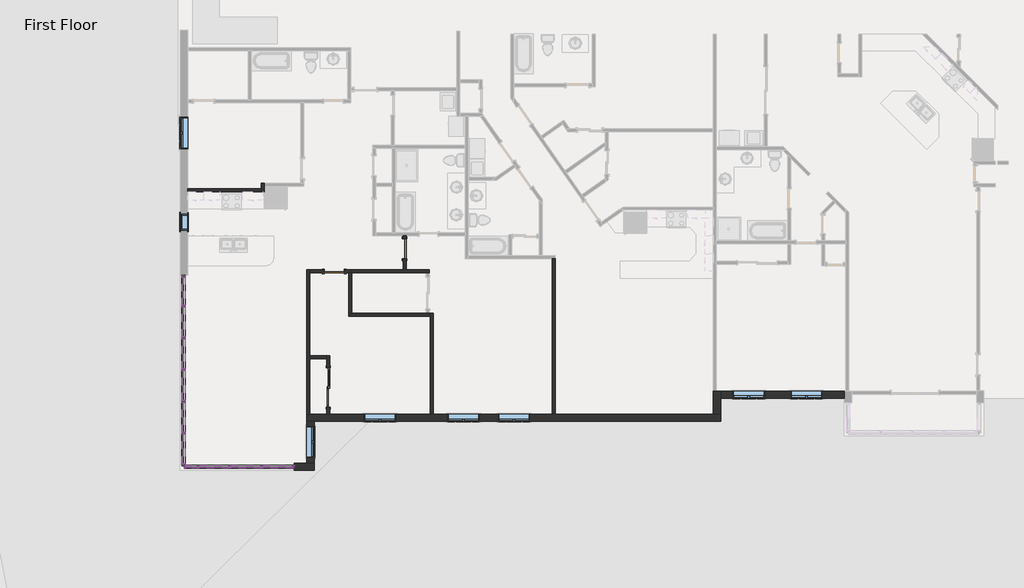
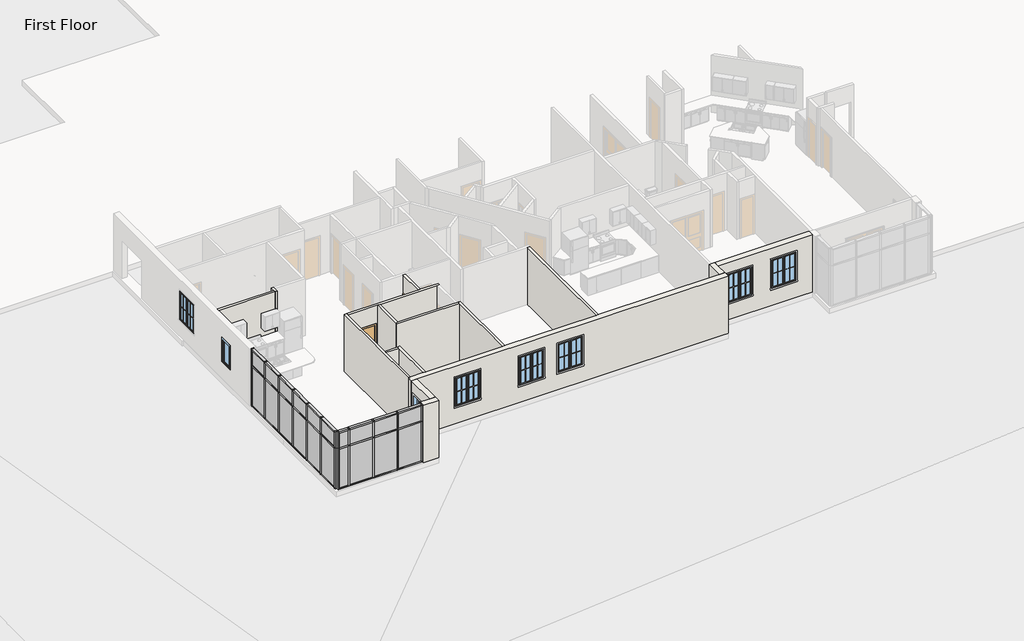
# One storey, part 1 of 17: 54 members, 20 plates, 16 walls, 8 windows, 3 doors.
"""IFC4 building model written with IfcOpenShell, lengths in millimetres."""

from ifc_helpers import new_model, si_unit, frame, origin, origin_with_axes, place, context, project, spatial, polyline, outline, extrude, faceted_brep, transform, mapped, element, save
from components import door_f2b275c1, door_2e7ec8be, rectangular_mullion_rectangular_mullion_1_c1bf3533, rectangular_mullion_rectangular_mullion_1_fa3625a1, rectangular_mullion_rectangular_mullion_1_a50b3cda, rectangular_mullion_rectangular_mullion_1_5cd4c5ac, rectangular_mullion_rectangular_mullion_1_7cbf0b94, rectangular_mullion_rectangular_mullion_1_1da01dff, rectangular_mullion_rectangular_mullion_1_6186cc23, rectangular_mullion_rectangular_mullion_1_049a2e78, rectangular_mullion_rectangular_mullion_1_fcad50a8, rectangular_mullion_rectangular_mullion_1_aa096312, system_panel_glazed_53e6f9fb, system_panel_glazed_0e039939, system_panel_glazed_cb820e14, system_panel_glazed_5b288161, system_panel_glazed_f20beefc, system_panel_glazed_097fd36c, window_b85827b5, window_33528cc2

model = new_model("IFC4")

# Units and contexts
model_context = context("Model", 3, world=origin())
ifc_project = project(units=[si_unit("LENGTHUNIT", "METRE", prefix="MILLI")], contexts=[model_context])

# Site, building, storey
site = spatial("IfcSite", under=ifc_project)
building = spatial("IfcBuilding", under=site)
storey = spatial("IfcBuildingStorey", under=building, Name="First Floor", Elevation=0.0)

# Doors
placement = place(None, origin())
door_shape = door_f2b275c1(model_context)
element("IfcDoor", 1, ObjectType="Single-Flush : 30\" x 80\"", at=placement, inside=storey, context=model_context, shape_type="MappedRepresentation", body=[
    mapped(door_shape, transform((12807.779723, -13829.1071807, 0.0), x_axis=(1.0, 0.0, 0.0), y_axis=(0.0, 1.0, 0.0), z_axis=(0.0, 0.0, 1.0))),
])
element("IfcDoor", 2, ObjectType="Single-Flush : 30\" x 80\"", at=placement, inside=storey, context=model_context, shape_type="MappedRepresentation", body=[
    mapped(door_shape, transform((15508.528371, -12959.3282576, 0.0), x_axis=(0.0, 1.0, 0.0), y_axis=(-1.0, 0.0, 0.0), z_axis=(0.0, 0.0, 1.0))),
])
door_2_shape = door_2e7ec8be(model_context)
element("IfcDoor", 3, ObjectType="Sliding-Closet : 60\" x 80\"", at=placement, inside=storey, context=model_context, shape_type="MappedRepresentation", body=[
    mapped(door_2_shape, transform((12448.2103704, -18291.1858961, 0.0), x_axis=(0.0, -1.0, 0.0), y_axis=(1.0, 0.0, 0.0), z_axis=(0.0, 0.0, 1.0))),
])

# Members
rectangular_mullion_rectangular_mullion_1_shape = rectangular_mullion_rectangular_mullion_1_c1bf3533(model_context)
element("IfcMember", 4, ObjectType="Rectangular Mullion : Rectangular Mullion 1", at=placement, inside=storey, context=model_context, shape_type="MappedRepresentation", body=[
    mapped(rectangular_mullion_rectangular_mullion_1_shape, transform((7097.5509633, -21333.0996067, 3048.0), x_axis=(0.0, 0.0, 1.0), y_axis=(0.0, 1.0, 0.0), z_axis=(-1.0, 0.0, 0.0))),
])
rectangular_mullion_rectangular_mullion_1_2_shape = rectangular_mullion_rectangular_mullion_1_fa3625a1(model_context)
element("IfcMember", 5, ObjectType="Rectangular Mullion : Rectangular Mullion 1", at=placement, inside=storey, context=model_context, shape_type="MappedRepresentation", body=[
    mapped(rectangular_mullion_rectangular_mullion_1_2_shape, transform((10056.650963, -21333.0996067, 3048.0), x_axis=(0.0, 0.0, 1.0), y_axis=(0.0, 1.0, 0.0), z_axis=(-1.0, 0.0, 0.0))),
])
element("IfcMember", 6, ObjectType="Rectangular Mullion : Rectangular Mullion 1", at=placement, inside=storey, context=model_context, shape_type="MappedRepresentation", body=[
    mapped(rectangular_mullion_rectangular_mullion_1_2_shape, transform((8837.450963, -21333.0996067, 3048.0), x_axis=(0.0, 0.0, 1.0), y_axis=(0.0, 1.0, 0.0), z_axis=(-1.0, 0.0, 0.0))),
])
element("IfcMember", 7, ObjectType="Rectangular Mullion : Rectangular Mullion 1", at=placement, inside=storey, context=model_context, shape_type="MappedRepresentation", body=[
    mapped(rectangular_mullion_rectangular_mullion_1_2_shape, transform((7618.250963, -21333.0996067, 3048.0), x_axis=(0.0, 0.0, 1.0), y_axis=(0.0, 1.0, 0.0), z_axis=(-1.0, 0.0, 0.0))),
])
element("IfcMember", 8, ObjectType="Rectangular Mullion : Rectangular Mullion 1", at=placement, inside=storey, context=model_context, shape_type="MappedRepresentation", body=[
    mapped(rectangular_mullion_rectangular_mullion_1_2_shape, transform((7015.0009633, -20069.4496064, 3048.0), x_axis=(0.0, 0.0, 1.0), y_axis=(1.0, 0.0, 0.0), z_axis=(0.0, 1.0, 0.0))),
])
element("IfcMember", 9, ObjectType="Rectangular Mullion : Rectangular Mullion 1", at=placement, inside=storey, context=model_context, shape_type="MappedRepresentation", body=[
    mapped(rectangular_mullion_rectangular_mullion_1_2_shape, transform((7015.0009633, -18850.2496064, 3048.0), x_axis=(0.0, 0.0, 1.0), y_axis=(1.0, 0.0, 0.0), z_axis=(0.0, 1.0, 0.0))),
])
element("IfcMember", 10, ObjectType="Rectangular Mullion : Rectangular Mullion 1", at=placement, inside=storey, context=model_context, shape_type="MappedRepresentation", body=[
    mapped(rectangular_mullion_rectangular_mullion_1_2_shape, transform((7015.0009633, -17631.0496064, 3048.0), x_axis=(0.0, 0.0, 1.0), y_axis=(1.0, 0.0, 0.0), z_axis=(0.0, 1.0, 0.0))),
])
element("IfcMember", 11, ObjectType="Rectangular Mullion : Rectangular Mullion 1", at=placement, inside=storey, context=model_context, shape_type="MappedRepresentation", body=[
    mapped(rectangular_mullion_rectangular_mullion_1_2_shape, transform((7015.0009633, -16411.8496064, 3048.0), x_axis=(0.0, 0.0, 1.0), y_axis=(1.0, 0.0, 0.0), z_axis=(0.0, 1.0, 0.0))),
])
element("IfcMember", 12, ObjectType="Rectangular Mullion : Rectangular Mullion 1", at=placement, inside=storey, context=model_context, shape_type="MappedRepresentation", body=[
    mapped(rectangular_mullion_rectangular_mullion_1_2_shape, transform((7015.0009633, -15192.6496064, 3048.0), x_axis=(0.0, 0.0, 1.0), y_axis=(1.0, 0.0, 0.0), z_axis=(0.0, 1.0, 0.0))),
])
element("IfcMember", 13, ObjectType="Rectangular Mullion : Rectangular Mullion 1", at=placement, inside=storey, context=model_context, shape_type="MappedRepresentation", body=[
    mapped(rectangular_mullion_rectangular_mullion_1_2_shape, transform((11212.3509633, -21333.0996067, 0.0), x_axis=(0.0, 0.0, -1.0), y_axis=(0.0, 1.0, 0.0), z_axis=(1.0, 0.0, 0.0))),
])
element("IfcMember", 14, ObjectType="Rectangular Mullion : Rectangular Mullion 1", at=placement, inside=storey, context=model_context, shape_type="MappedRepresentation", body=[
    mapped(rectangular_mullion_rectangular_mullion_1_2_shape, transform((9993.150963, -21333.0996067, 0.0), x_axis=(0.0, 0.0, -1.0), y_axis=(0.0, 1.0, 0.0), z_axis=(1.0, 0.0, 0.0))),
])
element("IfcMember", 15, ObjectType="Rectangular Mullion : Rectangular Mullion 1", at=placement, inside=storey, context=model_context, shape_type="MappedRepresentation", body=[
    mapped(rectangular_mullion_rectangular_mullion_1_2_shape, transform((8773.950963, -21333.0996067, 0.0), x_axis=(0.0, 0.0, -1.0), y_axis=(0.0, 1.0, 0.0), z_axis=(1.0, 0.0, 0.0))),
])
element("IfcMember", 16, ObjectType="Rectangular Mullion : Rectangular Mullion 1", at=placement, inside=storey, context=model_context, shape_type="MappedRepresentation", body=[
    mapped(rectangular_mullion_rectangular_mullion_1_2_shape, transform((7015.0009633, -21225.1496067, 0.0), x_axis=(0.0, 0.0, -1.0), y_axis=(1.0, 0.0, 0.0), z_axis=(0.0, -1.0, 0.0))),
])
element("IfcMember", 17, ObjectType="Rectangular Mullion : Rectangular Mullion 1", at=placement, inside=storey, context=model_context, shape_type="MappedRepresentation", body=[
    mapped(rectangular_mullion_rectangular_mullion_1_2_shape, transform((7015.0009633, -20005.9496064, 0.0), x_axis=(0.0, 0.0, -1.0), y_axis=(1.0, 0.0, 0.0), z_axis=(0.0, -1.0, 0.0))),
])
element("IfcMember", 18, ObjectType="Rectangular Mullion : Rectangular Mullion 1", at=placement, inside=storey, context=model_context, shape_type="MappedRepresentation", body=[
    mapped(rectangular_mullion_rectangular_mullion_1_2_shape, transform((7015.0009633, -18786.7496064, 0.0), x_axis=(0.0, 0.0, -1.0), y_axis=(1.0, 0.0, 0.0), z_axis=(0.0, -1.0, 0.0))),
])
element("IfcMember", 19, ObjectType="Rectangular Mullion : Rectangular Mullion 1", at=placement, inside=storey, context=model_context, shape_type="MappedRepresentation", body=[
    mapped(rectangular_mullion_rectangular_mullion_1_2_shape, transform((7015.0009633, -17567.5496064, 0.0), x_axis=(0.0, 0.0, -1.0), y_axis=(1.0, 0.0, 0.0), z_axis=(0.0, -1.0, 0.0))),
])
element("IfcMember", 20, ObjectType="Rectangular Mullion : Rectangular Mullion 1", at=placement, inside=storey, context=model_context, shape_type="MappedRepresentation", body=[
    mapped(rectangular_mullion_rectangular_mullion_1_2_shape, transform((7015.0009633, -16348.3496064, 0.0), x_axis=(0.0, 0.0, -1.0), y_axis=(1.0, 0.0, 0.0), z_axis=(0.0, -1.0, 0.0))),
])
element("IfcMember", 21, ObjectType="Rectangular Mullion : Rectangular Mullion 1", at=placement, inside=storey, context=model_context, shape_type="MappedRepresentation", body=[
    mapped(rectangular_mullion_rectangular_mullion_1_shape, transform((7554.750963, -21333.0996067, 0.0), x_axis=(0.0, 0.0, -1.0), y_axis=(0.0, 1.0, 0.0), z_axis=(1.0, 0.0, 0.0))),
])
rectangular_mullion_rectangular_mullion_1_3_shape = rectangular_mullion_rectangular_mullion_1_a50b3cda(model_context)
element("IfcMember", 22, ObjectType="Rectangular Mullion : Rectangular Mullion 1", at=placement, inside=storey, context=model_context, shape_type="MappedRepresentation", body=[
    mapped(rectangular_mullion_rectangular_mullion_1_3_shape, transform((7034.0509633, -21333.0996067, 0.0), x_axis=(-1.0, 0.0, 0.0), y_axis=(0.0, 1.0, 0.0), z_axis=(0.0, 0.0, -1.0))),
])
element("IfcMember", 23, ObjectType="Rectangular Mullion : Rectangular Mullion 1", at=placement, inside=storey, context=model_context, shape_type="MappedRepresentation", body=[
    mapped(rectangular_mullion_rectangular_mullion_1_3_shape, transform((7015.0009633, -13981.3871067, 0.0), x_axis=(0.0, 1.0, 0.0), y_axis=(1.0, 0.0, 0.0), z_axis=(0.0, 0.0, -1.0))),
])
rectangular_mullion_rectangular_mullion_1_4_shape = rectangular_mullion_rectangular_mullion_1_5cd4c5ac(model_context)
element("IfcMember", 24, ObjectType="Rectangular Mullion : Rectangular Mullion 1", at=placement, inside=storey, context=model_context, shape_type="MappedRepresentation", body=[
    mapped(rectangular_mullion_rectangular_mullion_1_4_shape, transform((7034.0509633, -21333.0996067, 2165.35), x_axis=(-1.0, 0.0, 0.0), y_axis=(0.0, 1.0, 0.0), z_axis=(0.0, 0.0, -1.0))),
])
element("IfcMember", 25, ObjectType="Rectangular Mullion : Rectangular Mullion 1", at=placement, inside=storey, context=model_context, shape_type="MappedRepresentation", body=[
    mapped(rectangular_mullion_rectangular_mullion_1_4_shape, transform((7015.0009633, -13981.3871067, 2165.35), x_axis=(0.0, 1.0, 0.0), y_axis=(1.0, 0.0, 0.0), z_axis=(0.0, 0.0, -1.0))),
])
element("IfcMember", 26, ObjectType="Rectangular Mullion : Rectangular Mullion 1", at=placement, inside=storey, context=model_context, shape_type="MappedRepresentation", body=[
    mapped(rectangular_mullion_rectangular_mullion_1_4_shape, transform((11275.8509633, -21333.0996067, 3048.0), x_axis=(1.0, 0.0, 0.0), y_axis=(0.0, 1.0, 0.0), z_axis=(0.0, 0.0, 1.0))),
])
element("IfcMember", 27, ObjectType="Rectangular Mullion : Rectangular Mullion 1", at=placement, inside=storey, context=model_context, shape_type="MappedRepresentation", body=[
    mapped(rectangular_mullion_rectangular_mullion_1_4_shape, transform((7015.0009633, -21288.6496067, 3048.0), x_axis=(0.0, -1.0, 0.0), y_axis=(1.0, 0.0, 0.0), z_axis=(0.0, 0.0, 1.0))),
])
element("IfcMember", 28, ObjectType="Rectangular Mullion : Rectangular Mullion 1", at=placement, inside=storey, context=model_context, shape_type="MappedRepresentation", body=[
    mapped(rectangular_mullion_rectangular_mullion_1_3_shape, transform((11275.8509633, -21333.0996067, 2165.35), x_axis=(1.0, 0.0, 0.0), y_axis=(0.0, 1.0, 0.0), z_axis=(0.0, 0.0, 1.0))),
])
element("IfcMember", 29, ObjectType="Rectangular Mullion : Rectangular Mullion 1", at=placement, inside=storey, context=model_context, shape_type="MappedRepresentation", body=[
    mapped(rectangular_mullion_rectangular_mullion_1_3_shape, transform((7015.0009633, -21288.6496067, 2165.35), x_axis=(0.0, -1.0, 0.0), y_axis=(1.0, 0.0, 0.0), z_axis=(0.0, 0.0, 1.0))),
])
rectangular_mullion_rectangular_mullion_1_5_shape = rectangular_mullion_rectangular_mullion_1_7cbf0b94(model_context)
element("IfcMember", 30, ObjectType="Rectangular Mullion : Rectangular Mullion 1", at=placement, inside=storey, context=model_context, shape_type="MappedRepresentation", body=[
    mapped(rectangular_mullion_rectangular_mullion_1_5_shape, transform((10056.650963, -21333.0996067, 2165.35), x_axis=(0.0, 0.0, 1.0), y_axis=(0.0, 1.0, 0.0), z_axis=(-1.0, 0.0, 0.0))),
])
element("IfcMember", 31, ObjectType="Rectangular Mullion : Rectangular Mullion 1", at=placement, inside=storey, context=model_context, shape_type="MappedRepresentation", body=[
    mapped(rectangular_mullion_rectangular_mullion_1_5_shape, transform((8837.450963, -21333.0996067, 2165.35), x_axis=(0.0, 0.0, 1.0), y_axis=(0.0, 1.0, 0.0), z_axis=(-1.0, 0.0, 0.0))),
])
element("IfcMember", 32, ObjectType="Rectangular Mullion : Rectangular Mullion 1", at=placement, inside=storey, context=model_context, shape_type="MappedRepresentation", body=[
    mapped(rectangular_mullion_rectangular_mullion_1_5_shape, transform((7618.250963, -21333.0996067, 2165.35), x_axis=(0.0, 0.0, 1.0), y_axis=(0.0, 1.0, 0.0), z_axis=(-1.0, 0.0, 0.0))),
])
element("IfcMember", 33, ObjectType="Rectangular Mullion : Rectangular Mullion 1", at=placement, inside=storey, context=model_context, shape_type="MappedRepresentation", body=[
    mapped(rectangular_mullion_rectangular_mullion_1_5_shape, transform((7015.0009633, -20069.4496064, 2165.35), x_axis=(0.0, 0.0, 1.0), y_axis=(1.0, 0.0, 0.0), z_axis=(0.0, 1.0, 0.0))),
])
element("IfcMember", 34, ObjectType="Rectangular Mullion : Rectangular Mullion 1", at=placement, inside=storey, context=model_context, shape_type="MappedRepresentation", body=[
    mapped(rectangular_mullion_rectangular_mullion_1_5_shape, transform((7015.0009633, -18850.2496064, 2165.35), x_axis=(0.0, 0.0, 1.0), y_axis=(1.0, 0.0, 0.0), z_axis=(0.0, 1.0, 0.0))),
])
element("IfcMember", 35, ObjectType="Rectangular Mullion : Rectangular Mullion 1", at=placement, inside=storey, context=model_context, shape_type="MappedRepresentation", body=[
    mapped(rectangular_mullion_rectangular_mullion_1_5_shape, transform((7015.0009633, -17631.0496064, 2165.35), x_axis=(0.0, 0.0, 1.0), y_axis=(1.0, 0.0, 0.0), z_axis=(0.0, 1.0, 0.0))),
])
element("IfcMember", 36, ObjectType="Rectangular Mullion : Rectangular Mullion 1", at=placement, inside=storey, context=model_context, shape_type="MappedRepresentation", body=[
    mapped(rectangular_mullion_rectangular_mullion_1_5_shape, transform((7015.0009633, -16411.8496064, 2165.35), x_axis=(0.0, 0.0, 1.0), y_axis=(1.0, 0.0, 0.0), z_axis=(0.0, 1.0, 0.0))),
])
element("IfcMember", 37, ObjectType="Rectangular Mullion : Rectangular Mullion 1", at=placement, inside=storey, context=model_context, shape_type="MappedRepresentation", body=[
    mapped(rectangular_mullion_rectangular_mullion_1_5_shape, transform((7015.0009633, -15192.6496064, 2165.35), x_axis=(0.0, 0.0, 1.0), y_axis=(1.0, 0.0, 0.0), z_axis=(0.0, 1.0, 0.0))),
])
rectangular_mullion_rectangular_mullion_1_6_shape = rectangular_mullion_rectangular_mullion_1_1da01dff(model_context)
element("IfcMember", 38, ObjectType="Rectangular Mullion : Rectangular Mullion 1", at=placement, inside=storey, context=model_context, shape_type="MappedRepresentation", body=[
    mapped(rectangular_mullion_rectangular_mullion_1_6_shape, transform((7097.5509633, -21333.0996067, 2165.35), x_axis=(0.0, 0.0, 1.0), y_axis=(0.0, 1.0, 0.0), z_axis=(-1.0, 0.0, 0.0))),
])
rectangular_mullion_rectangular_mullion_1_7_shape = rectangular_mullion_rectangular_mullion_1_6186cc23(model_context)
element("IfcMember", 39, ObjectType="Rectangular Mullion : Rectangular Mullion 1", at=placement, inside=storey, context=model_context, shape_type="MappedRepresentation", body=[
    mapped(rectangular_mullion_rectangular_mullion_1_7_shape, transform((10024.900963, -21333.0996067, 0.0), x_axis=(-1.0, 0.0, 0.0), y_axis=(0.0, 1.0, 0.0), z_axis=(0.0, 0.0, -1.0))),
])
element("IfcMember", 40, ObjectType="Rectangular Mullion : Rectangular Mullion 1", at=placement, inside=storey, context=model_context, shape_type="MappedRepresentation", body=[
    mapped(rectangular_mullion_rectangular_mullion_1_7_shape, transform((8805.700963, -21333.0996067, 0.0), x_axis=(-1.0, 0.0, 0.0), y_axis=(0.0, 1.0, 0.0), z_axis=(0.0, 0.0, -1.0))),
])
element("IfcMember", 41, ObjectType="Rectangular Mullion : Rectangular Mullion 1", at=placement, inside=storey, context=model_context, shape_type="MappedRepresentation", body=[
    mapped(rectangular_mullion_rectangular_mullion_1_7_shape, transform((7586.500963, -21333.0996067, 0.0), x_axis=(-1.0, 0.0, 0.0), y_axis=(0.0, 1.0, 0.0), z_axis=(0.0, 0.0, -1.0))),
])
element("IfcMember", 42, ObjectType="Rectangular Mullion : Rectangular Mullion 1", at=placement, inside=storey, context=model_context, shape_type="MappedRepresentation", body=[
    mapped(rectangular_mullion_rectangular_mullion_1_7_shape, transform((7015.0009633, -20037.6996064, 0.0), x_axis=(0.0, 1.0, 0.0), y_axis=(1.0, 0.0, 0.0), z_axis=(0.0, 0.0, -1.0))),
])
element("IfcMember", 43, ObjectType="Rectangular Mullion : Rectangular Mullion 1", at=placement, inside=storey, context=model_context, shape_type="MappedRepresentation", body=[
    mapped(rectangular_mullion_rectangular_mullion_1_7_shape, transform((7015.0009633, -18818.4996064, 0.0), x_axis=(0.0, 1.0, 0.0), y_axis=(1.0, 0.0, 0.0), z_axis=(0.0, 0.0, -1.0))),
])
element("IfcMember", 44, ObjectType="Rectangular Mullion : Rectangular Mullion 1", at=placement, inside=storey, context=model_context, shape_type="MappedRepresentation", body=[
    mapped(rectangular_mullion_rectangular_mullion_1_7_shape, transform((7015.0009633, -17599.2996064, 0.0), x_axis=(0.0, 1.0, 0.0), y_axis=(1.0, 0.0, 0.0), z_axis=(0.0, 0.0, -1.0))),
])
element("IfcMember", 45, ObjectType="Rectangular Mullion : Rectangular Mullion 1", at=placement, inside=storey, context=model_context, shape_type="MappedRepresentation", body=[
    mapped(rectangular_mullion_rectangular_mullion_1_7_shape, transform((7015.0009633, -16380.0996064, 0.0), x_axis=(0.0, 1.0, 0.0), y_axis=(1.0, 0.0, 0.0), z_axis=(0.0, 0.0, -1.0))),
])
element("IfcMember", 46, ObjectType="Rectangular Mullion : Rectangular Mullion 1", at=placement, inside=storey, context=model_context, shape_type="MappedRepresentation", body=[
    mapped(rectangular_mullion_rectangular_mullion_1_7_shape, transform((7015.0009633, -15160.8996064, 0.0), x_axis=(0.0, 1.0, 0.0), y_axis=(1.0, 0.0, 0.0), z_axis=(0.0, 0.0, -1.0))),
])
rectangular_mullion_rectangular_mullion_1_8_shape = rectangular_mullion_rectangular_mullion_1_049a2e78(model_context)
element("IfcMember", 47, ObjectType="Rectangular Mullion : Rectangular Mullion 1", at=placement, inside=storey, context=model_context, shape_type="MappedRepresentation", body=[
    mapped(rectangular_mullion_rectangular_mullion_1_8_shape, transform((10024.900963, -21333.0996067, 2165.35), x_axis=(-1.0, 0.0, 0.0), y_axis=(0.0, 1.0, 0.0), z_axis=(0.0, 0.0, -1.0))),
])
element("IfcMember", 48, ObjectType="Rectangular Mullion : Rectangular Mullion 1", at=placement, inside=storey, context=model_context, shape_type="MappedRepresentation", body=[
    mapped(rectangular_mullion_rectangular_mullion_1_8_shape, transform((8805.700963, -21333.0996067, 2165.35), x_axis=(-1.0, 0.0, 0.0), y_axis=(0.0, 1.0, 0.0), z_axis=(0.0, 0.0, -1.0))),
])
element("IfcMember", 49, ObjectType="Rectangular Mullion : Rectangular Mullion 1", at=placement, inside=storey, context=model_context, shape_type="MappedRepresentation", body=[
    mapped(rectangular_mullion_rectangular_mullion_1_8_shape, transform((7586.500963, -21333.0996067, 2165.35), x_axis=(-1.0, 0.0, 0.0), y_axis=(0.0, 1.0, 0.0), z_axis=(0.0, 0.0, -1.0))),
])
element("IfcMember", 50, ObjectType="Rectangular Mullion : Rectangular Mullion 1", at=placement, inside=storey, context=model_context, shape_type="MappedRepresentation", body=[
    mapped(rectangular_mullion_rectangular_mullion_1_8_shape, transform((7015.0009633, -20037.6996064, 2165.35), x_axis=(0.0, 1.0, 0.0), y_axis=(1.0, 0.0, 0.0), z_axis=(0.0, 0.0, -1.0))),
])
element("IfcMember", 51, ObjectType="Rectangular Mullion : Rectangular Mullion 1", at=placement, inside=storey, context=model_context, shape_type="MappedRepresentation", body=[
    mapped(rectangular_mullion_rectangular_mullion_1_8_shape, transform((7015.0009633, -18818.4996064, 2165.35), x_axis=(0.0, 1.0, 0.0), y_axis=(1.0, 0.0, 0.0), z_axis=(0.0, 0.0, -1.0))),
])
element("IfcMember", 52, ObjectType="Rectangular Mullion : Rectangular Mullion 1", at=placement, inside=storey, context=model_context, shape_type="MappedRepresentation", body=[
    mapped(rectangular_mullion_rectangular_mullion_1_8_shape, transform((7015.0009633, -17599.2996064, 2165.35), x_axis=(0.0, 1.0, 0.0), y_axis=(1.0, 0.0, 0.0), z_axis=(0.0, 0.0, -1.0))),
])
element("IfcMember", 53, ObjectType="Rectangular Mullion : Rectangular Mullion 1", at=placement, inside=storey, context=model_context, shape_type="MappedRepresentation", body=[
    mapped(rectangular_mullion_rectangular_mullion_1_8_shape, transform((7015.0009633, -16380.0996064, 2165.35), x_axis=(0.0, 1.0, 0.0), y_axis=(1.0, 0.0, 0.0), z_axis=(0.0, 0.0, -1.0))),
])
element("IfcMember", 54, ObjectType="Rectangular Mullion : Rectangular Mullion 1", at=placement, inside=storey, context=model_context, shape_type="MappedRepresentation", body=[
    mapped(rectangular_mullion_rectangular_mullion_1_8_shape, transform((7015.0009633, -15160.8996064, 2165.35), x_axis=(0.0, 1.0, 0.0), y_axis=(1.0, 0.0, 0.0), z_axis=(0.0, 0.0, -1.0))),
])
rectangular_mullion_rectangular_mullion_1_9_shape = rectangular_mullion_rectangular_mullion_1_fcad50a8(model_context)
element("IfcMember", 55, ObjectType="Rectangular Mullion : Rectangular Mullion 1", at=placement, inside=storey, context=model_context, shape_type="MappedRepresentation", body=[
    mapped(rectangular_mullion_rectangular_mullion_1_9_shape, transform((7015.0009633, -14044.8871067, 3048.0), x_axis=(0.0, 0.0, 1.0), y_axis=(1.0, 0.0, 0.0), z_axis=(0.0, 1.0, 0.0))),
])
element("IfcMember", 56, ObjectType="Rectangular Mullion : Rectangular Mullion 1", at=placement, inside=storey, context=model_context, shape_type="MappedRepresentation", body=[
    mapped(rectangular_mullion_rectangular_mullion_1_9_shape, transform((7015.0009633, -15129.1496064, 0.0), x_axis=(0.0, 0.0, -1.0), y_axis=(1.0, 0.0, 0.0), z_axis=(0.0, -1.0, 0.0))),
])
rectangular_mullion_rectangular_mullion_1_10_shape = rectangular_mullion_rectangular_mullion_1_aa096312(model_context)
element("IfcMember", 57, ObjectType="Rectangular Mullion : Rectangular Mullion 1", at=placement, inside=storey, context=model_context, shape_type="MappedRepresentation", body=[
    mapped(rectangular_mullion_rectangular_mullion_1_10_shape, transform((7015.0009633, -14044.8871067, 2165.35), x_axis=(0.0, 0.0, 1.0), y_axis=(1.0, 0.0, 0.0), z_axis=(0.0, 1.0, 0.0))),
])

# Plates
system_panel_glazed_shape = system_panel_glazed_53e6f9fb(model_context)
element("IfcPlate", 58, ObjectType="System Panel : Glazed", at=placement, inside=storey, context=model_context, shape_type="MappedRepresentation", body=[
    mapped(system_panel_glazed_shape, transform((10634.5009632, -21333.0996067, 63.5), x_axis=(-1.0, 0.0, 0.0), y_axis=(0.0, -1.0, 0.0), z_axis=(0.0, 0.0, 1.0))),
])
element("IfcPlate", 59, ObjectType="System Panel : Glazed", at=placement, inside=storey, context=model_context, shape_type="MappedRepresentation", body=[
    mapped(system_panel_glazed_shape, transform((7015.0009633, -20647.2996066, 63.5), x_axis=(0.0, 1.0, 0.0), y_axis=(-1.0, 0.0, 0.0), z_axis=(0.0, 0.0, 1.0))),
])
element("IfcPlate", 60, ObjectType="System Panel : Glazed", at=placement, inside=storey, context=model_context, shape_type="MappedRepresentation", body=[
    mapped(system_panel_glazed_shape, transform((9415.300963, -21333.0996067, 63.5), x_axis=(-1.0, 0.0, 0.0), y_axis=(0.0, -1.0, 0.0), z_axis=(0.0, 0.0, 1.0))),
])
element("IfcPlate", 61, ObjectType="System Panel : Glazed", at=placement, inside=storey, context=model_context, shape_type="MappedRepresentation", body=[
    mapped(system_panel_glazed_shape, transform((8196.100963, -21333.0996067, 63.5), x_axis=(-1.0, 0.0, 0.0), y_axis=(0.0, -1.0, 0.0), z_axis=(0.0, 0.0, 1.0))),
])
element("IfcPlate", 62, ObjectType="System Panel : Glazed", at=placement, inside=storey, context=model_context, shape_type="MappedRepresentation", body=[
    mapped(system_panel_glazed_shape, transform((7015.0009633, -19428.0996064, 63.5), x_axis=(0.0, 1.0, 0.0), y_axis=(-1.0, 0.0, 0.0), z_axis=(0.0, 0.0, 1.0))),
])
element("IfcPlate", 63, ObjectType="System Panel : Glazed", at=placement, inside=storey, context=model_context, shape_type="MappedRepresentation", body=[
    mapped(system_panel_glazed_shape, transform((7015.0009633, -18208.8996064, 63.5), x_axis=(0.0, 1.0, 0.0), y_axis=(-1.0, 0.0, 0.0), z_axis=(0.0, 0.0, 1.0))),
])
element("IfcPlate", 64, ObjectType="System Panel : Glazed", at=placement, inside=storey, context=model_context, shape_type="MappedRepresentation", body=[
    mapped(system_panel_glazed_shape, transform((7015.0009633, -16989.6996064, 63.5), x_axis=(0.0, 1.0, 0.0), y_axis=(-1.0, 0.0, 0.0), z_axis=(0.0, 0.0, 1.0))),
])
element("IfcPlate", 65, ObjectType="System Panel : Glazed", at=placement, inside=storey, context=model_context, shape_type="MappedRepresentation", body=[
    mapped(system_panel_glazed_shape, transform((7015.0009633, -15770.4996064, 63.5), x_axis=(0.0, 1.0, 0.0), y_axis=(-1.0, 0.0, 0.0), z_axis=(0.0, 0.0, 1.0))),
])
system_panel_glazed_2_shape = system_panel_glazed_0e039939(model_context)
element("IfcPlate", 66, ObjectType="System Panel : Glazed", at=placement, inside=storey, context=model_context, shape_type="MappedRepresentation", body=[
    mapped(system_panel_glazed_2_shape, transform((7326.1509632, -21333.0996067, 63.5), x_axis=(-1.0, 0.0, 0.0), y_axis=(0.0, -1.0, 0.0), z_axis=(0.0, 0.0, 1.0))),
])
system_panel_glazed_3_shape = system_panel_glazed_cb820e14(model_context)
element("IfcPlate", 67, ObjectType="System Panel : Glazed", at=placement, inside=storey, context=model_context, shape_type="MappedRepresentation", body=[
    mapped(system_panel_glazed_3_shape, transform((10634.5009632, -21333.0996067, 2197.1), x_axis=(-1.0, 0.0, 0.0), y_axis=(0.0, -1.0, 0.0), z_axis=(0.0, 0.0, 1.0))),
])
element("IfcPlate", 68, ObjectType="System Panel : Glazed", at=placement, inside=storey, context=model_context, shape_type="MappedRepresentation", body=[
    mapped(system_panel_glazed_3_shape, transform((9415.300963, -21333.0996067, 2197.1), x_axis=(-1.0, 0.0, 0.0), y_axis=(0.0, -1.0, 0.0), z_axis=(0.0, 0.0, 1.0))),
])
element("IfcPlate", 69, ObjectType="System Panel : Glazed", at=placement, inside=storey, context=model_context, shape_type="MappedRepresentation", body=[
    mapped(system_panel_glazed_3_shape, transform((8196.100963, -21333.0996067, 2197.1), x_axis=(-1.0, 0.0, 0.0), y_axis=(0.0, -1.0, 0.0), z_axis=(0.0, 0.0, 1.0))),
])
element("IfcPlate", 70, ObjectType="System Panel : Glazed", at=placement, inside=storey, context=model_context, shape_type="MappedRepresentation", body=[
    mapped(system_panel_glazed_3_shape, transform((7015.0009633, -20647.2996066, 2197.1), x_axis=(0.0, 1.0, 0.0), y_axis=(-1.0, 0.0, 0.0), z_axis=(0.0, 0.0, 1.0))),
])
element("IfcPlate", 71, ObjectType="System Panel : Glazed", at=placement, inside=storey, context=model_context, shape_type="MappedRepresentation", body=[
    mapped(system_panel_glazed_3_shape, transform((7015.0009633, -19428.0996064, 2197.1), x_axis=(0.0, 1.0, 0.0), y_axis=(-1.0, 0.0, 0.0), z_axis=(0.0, 0.0, 1.0))),
])
element("IfcPlate", 72, ObjectType="System Panel : Glazed", at=placement, inside=storey, context=model_context, shape_type="MappedRepresentation", body=[
    mapped(system_panel_glazed_3_shape, transform((7015.0009633, -18208.8996064, 2197.1), x_axis=(0.0, 1.0, 0.0), y_axis=(-1.0, 0.0, 0.0), z_axis=(0.0, 0.0, 1.0))),
])
element("IfcPlate", 73, ObjectType="System Panel : Glazed", at=placement, inside=storey, context=model_context, shape_type="MappedRepresentation", body=[
    mapped(system_panel_glazed_3_shape, transform((7015.0009633, -16989.6996064, 2197.1), x_axis=(0.0, 1.0, 0.0), y_axis=(-1.0, 0.0, 0.0), z_axis=(0.0, 0.0, 1.0))),
])
element("IfcPlate", 74, ObjectType="System Panel : Glazed", at=placement, inside=storey, context=model_context, shape_type="MappedRepresentation", body=[
    mapped(system_panel_glazed_3_shape, transform((7015.0009633, -15770.4996064, 2197.1), x_axis=(0.0, 1.0, 0.0), y_axis=(-1.0, 0.0, 0.0), z_axis=(0.0, 0.0, 1.0))),
])
system_panel_glazed_4_shape = system_panel_glazed_5b288161(model_context)
element("IfcPlate", 75, ObjectType="System Panel : Glazed", at=placement, inside=storey, context=model_context, shape_type="MappedRepresentation", body=[
    mapped(system_panel_glazed_4_shape, transform((7326.1509632, -21333.0996067, 2197.1), x_axis=(-1.0, 0.0, 0.0), y_axis=(0.0, -1.0, 0.0), z_axis=(0.0, 0.0, 1.0))),
])
system_panel_glazed_5_shape = system_panel_glazed_f20beefc(model_context)
element("IfcPlate", 76, ObjectType="System Panel : Glazed", at=placement, inside=storey, context=model_context, shape_type="MappedRepresentation", body=[
    mapped(system_panel_glazed_5_shape, transform((7015.0009633, -14587.0183566, 63.5), x_axis=(0.0, 1.0, 0.0), y_axis=(-1.0, 0.0, 0.0), z_axis=(0.0, 0.0, 1.0))),
])
system_panel_glazed_6_shape = system_panel_glazed_097fd36c(model_context)
element("IfcPlate", 77, ObjectType="System Panel : Glazed", at=placement, inside=storey, context=model_context, shape_type="MappedRepresentation", body=[
    mapped(system_panel_glazed_6_shape, transform((7015.0009633, -14587.0183566, 2197.1), x_axis=(0.0, 1.0, 0.0), y_axis=(-1.0, 0.0, 0.0), z_axis=(0.0, 0.0, 1.0))),
])

# Walls
element("IfcWall", 78, ObjectType="Exterior - Brick on Wood Stud", at=placement, inside=storey, context=model_context, shape_type="Brep", body=[
    faceted_brep([(12033.0884633, -21191.8121067, 0.0), (11750.5134633, -21191.8121067, 0.0), (11275.8509633, -21191.8121067, 0.0), (11275.8509633, -21191.8121067, 3048.0), (11750.5134633, -21191.8121067, 3048.0), (12033.0884633, -21191.8121067, 3048.0), (12033.0884633, -21474.3871067, 0.0), (12033.0884633, -21474.3871067, 3048.0), (11275.8509633, -21474.3871067, 3048.0), (11275.8509633, -21474.3871067, 0.0)], [[[0, 1, 2, 3, 4, 5]], [[6, 7, 8, 9]], [[2, 1, 0, 6, 9]], [[3, 2, 9, 8]], [[5, 4, 3, 8, 7]], [[0, 5, 7, 6]]]),
])
element("IfcWall", 79, ObjectType="Exterior - Brick on Wood Stud", at=placement, inside=storey, context=model_context, shape_type="Brep", body=[
    faceted_brep([(27656.3115862, -19313.2865506, 0.0), (27373.7365862, -19313.2865506, 0.0), (21299.9615862, -19313.2865506, 0.0), (21185.6615862, -19313.2865506, 0.0), (16611.410372, -19313.2865506, 0.0), (16497.110372, -19313.2865506, 0.0), (12632.3603704, -19313.2865506, 0.0), (12518.0603704, -19313.2865506, 0.0), (11864.8134633, -19313.2865506, 0.0), (11750.5134633, -19313.2865506, 0.0), (11750.5134633, -19313.2865506, 3048.0), (11864.8134633, -19313.2865506, 3048.0), (12518.0603704, -19313.2865506, 3048.0), (12632.3603704, -19313.2865506, 3048.0), (16497.110372, -19313.2865506, 3048.0), (16611.410372, -19313.2865506, 3048.0), (21185.6615862, -19313.2865506, 3048.0), (21299.9615862, -19313.2865506, 3048.0), (27373.7365862, -19313.2865506, 3048.0), (27656.3115862, -19313.2865506, 3048.0), (19109.2115862, -19313.2865506, 2438.4), (19109.2115862, -19313.2865506, 914.4), (20328.4115862, -19313.2865506, 914.4), (20328.4115862, -19313.2865506, 2438.4), (13955.1353712, -19313.2865506, 2438.4), (13955.1353712, -19313.2865506, 914.4), (15174.3353712, -19313.2865506, 914.4), (15174.3353712, -19313.2865506, 2438.4), (17163.860372, -19313.2865506, 2438.4), (17163.860372, -19313.2865506, 914.4), (18383.060372, -19313.2865506, 914.4), (18383.060372, -19313.2865506, 2438.4), (27656.3115862, -19595.8615506, 0.0), (27656.3115862, -19595.8615506, 3048.0), (12033.0884633, -19595.8615506, 3048.0), (11750.5134633, -19595.8615506, 3048.0), (11750.5134633, -19595.8615506, 0.0), (12033.0884633, -19595.8615506, 0.0), (19109.2115862, -19595.8615506, 2438.4), (20328.4115862, -19595.8615506, 2438.4), (20328.4115862, -19595.8615506, 914.4), (19109.2115862, -19595.8615506, 914.4), (13955.1353712, -19595.8615506, 2438.4), (15174.3353712, -19595.8615506, 2438.4), (15174.3353712, -19595.8615506, 914.4), (13955.1353712, -19595.8615506, 914.4), (17163.860372, -19595.8615506, 2438.4), (18383.060372, -19595.8615506, 2438.4), (18383.060372, -19595.8615506, 914.4), (17163.860372, -19595.8615506, 914.4)], [[[0, 1, 2, 3, 4, 5, 6, 7, 8, 9, 10, 11, 12, 13, 14, 15, 16, 17, 18, 19], [20, 21, 22, 23], [24, 25, 26, 27], [28, 29, 30, 31]], [[32, 33, 34, 35, 36, 37], [38, 39, 40, 41], [42, 43, 44, 45], [46, 47, 48, 49]], [[21, 20, 38, 41]], [[22, 21, 41, 40]], [[23, 22, 40, 39]], [[20, 23, 39, 38]], [[25, 24, 42, 45]], [[26, 25, 45, 44]], [[27, 26, 44, 43]], [[24, 27, 43, 42]], [[29, 28, 46, 49]], [[30, 29, 49, 48]], [[31, 30, 48, 47]], [[28, 31, 47, 46]], [[9, 8, 7, 6, 5, 4, 3, 2, 1, 0, 32, 37, 36]], [[19, 18, 17, 16, 15, 14, 13, 12, 11, 10, 35, 34, 33]], [[0, 19, 33, 32]], [[10, 9, 36, 35]]]),
])
element("IfcWall", 80, ObjectType="Exterior - Brick on Wood Stud", at=placement, inside=storey, context=model_context, shape_type="Brep", body=[
    faceted_brep([(27656.3115862, -19313.2865506, 0.0), (27656.3115862, -18708.8441587, 0.0), (27656.3115862, -18426.2691587, 0.0), (27656.3115862, -18426.2691587, 3048.0), (27656.3115862, -18708.8441587, 3048.0), (27656.3115862, -19313.2865506, 3048.0), (27373.7365862, -19313.2865506, 0.0), (27373.7365862, -19313.2865506, 3048.0), (27373.7365862, -18426.2691587, 3048.0), (27373.7365862, -18426.2691587, 0.0), (27488.0365862, -18426.2691587, 0.0), (27488.0365862, -18426.2691587, 3048.0)], [[[0, 1, 2, 3, 4, 5]], [[6, 7, 8, 9]], [[2, 1, 0, 6, 9, 10]], [[5, 4, 3, 11, 8, 7]], [[3, 2, 10, 9, 8, 11]], [[0, 5, 7, 6]]]),
])
element("IfcWall", 81, ObjectType="Exterior - Brick on Wood Stud", at=placement, inside=storey, context=model_context, shape_type="SweptSolid", body=[
    extrude(outline(polyline([(-21191.8121067, 0.0), (-21191.8121067, 3048.0), (-19595.8615506, 3048.0), (-19595.8615506, 0.0), (-21191.8121067, 0.0)]), holes=[polyline([(-20990.7368287, 2438.4), (-20990.7368287, 914.4), (-19771.5368287, 914.4), (-19771.5368287, 2438.4), (-20990.7368287, 2438.4)])]), frame((11750.5134633, 0.0, 0.0), z_axis=(1.0, 0.0, 0.0), x_axis=(0.0, 1.0, 0.0)), (0.0, 0.0, 1.0), 282.575),
])
element("IfcWall", 82, ObjectType="Exterior - Brick on Wood Stud", at=placement, inside=storey, context=model_context, shape_type="SweptSolid", body=[
    extrude(outline(polyline([(0.0, 27656.3115862), (0.0, 32412.3745389), (3048.0, 32412.3745389), (3048.0, 27656.3115862), (0.0, 27656.3115862)]), holes=[polyline([(2438.4, 28124.6240862), (2438.4, 29343.8240862), (914.4, 29343.8240862), (914.4, 28124.6240862), (2438.4, 28124.6240862)]), polyline([(2438.4, 30343.8620389), (2438.4, 31563.0620389), (914.4, 31563.0620389), (914.4, 30343.8620389), (2438.4, 30343.8620389)])]), frame((0.0, -18708.8441587, 0.0), z_axis=(0.0, 1.0, 0.0), x_axis=(0.0, 0.0, 1.0)), (0.0, 0.0, 1.0), 282.575),
])
element("IfcWall", 83, ObjectType="Interior - 4 1/2\" Partition", at=placement, inside=storey, context=model_context, shape_type="SweptSolid", body=[
    extrude(outline(polyline([(21185.6615862, -19313.2865506), (21185.6615862, -13350.4704597), (21299.9615862, -13350.4704597), (21299.9615862, -19313.2865506), (21185.6615862, -19313.2865506)])), origin_with_axes(), (0.0, 0.0, 1.0), 3048.0),
])
element("IfcWall", 84, ObjectType="Interior - 4 1/2\" Partition", at=placement, inside=storey, context=model_context, shape_type="Brep", body=[
    faceted_brep([(16611.410372, -19313.2865506, 0.0), (16611.410372, -15440.4282946, 0.0), (16611.410372, -15440.4282946, 3048.0), (16611.410372, -19313.2865506, 3048.0), (16497.110372, -19313.2865506, 0.0), (16497.110372, -19313.2865506, 3048.0), (16497.110372, -15554.7282946, 3048.0), (16497.110372, -15440.4282946, 3048.0), (16497.110372, -15440.4282946, 0.0), (16497.110372, -15554.7282946, 0.0)], [[[0, 1, 2, 3]], [[4, 5, 6, 7, 8, 9]], [[1, 0, 4, 9, 8]], [[3, 2, 7, 6, 5]], [[2, 1, 8, 7]], [[0, 3, 5, 4]]]),
])
element("IfcWall", 85, ObjectType="Interior - 4 1/2\" Partition", at=placement, inside=storey, context=model_context, shape_type="Brep", body=[
    faceted_brep([(16497.110372, -15440.4282946, 0.0), (16459.010372, -15440.4282946, 0.0), (16344.710372, -15440.4282946, 0.0), (13474.529723, -15440.4282946, 0.0), (13360.229723, -15440.4282946, 0.0), (13360.229723, -15440.4282946, 3048.0), (13474.529723, -15440.4282946, 3048.0), (16344.710372, -15440.4282946, 3048.0), (16459.010372, -15440.4282946, 3048.0), (16497.110372, -15440.4282946, 3048.0), (16497.110372, -15554.7282946, 0.0), (16497.110372, -15554.7282946, 3048.0), (13360.229723, -15554.7282946, 3048.0), (13360.229723, -15554.7282946, 0.0)], [[[0, 1, 2, 3, 4, 5, 6, 7, 8, 9]], [[10, 11, 12, 13]], [[4, 3, 2, 1, 0, 10, 13]], [[9, 8, 7, 6, 5, 12, 11]], [[5, 4, 13, 12]], [[0, 9, 11, 10]]]),
])
element("IfcWall", 86, ObjectType="Interior - 4 1/2\" Partition", at=placement, inside=storey, context=model_context, shape_type="SweptSolid", body=[
    extrude(outline(polyline([(13474.529723, -13886.2571807), (13474.529723, -15440.4282946), (13360.229723, -15440.4282946), (13360.229723, -13886.2571807), (13474.529723, -13886.2571807)])), origin_with_axes(), (0.0, 0.0, 1.0), 3048.0),
])
element("IfcWall", 87, ObjectType="Interior - 4 1/2\" Partition", at=placement, inside=storey, context=model_context, shape_type="Brep", body=[
    faceted_brep([(11864.8134633, -19313.2865506, 0.0), (11864.8134633, -17184.9477416, 0.0), (11864.8134633, -17070.6477416, 0.0), (11864.8134633, -13886.2571807, 0.0), (11864.8134633, -13771.9571807, 0.0), (11864.8134633, -13771.9571807, 3048.0), (11864.8134633, -13886.2571807, 3048.0), (11864.8134633, -17070.6477416, 3048.0), (11864.8134633, -17184.9477416, 3048.0), (11864.8134633, -19313.2865506, 3048.0), (11750.5134633, -19313.2865506, 0.0), (11750.5134633, -19313.2865506, 3048.0), (11750.5134633, -13771.9571807, 3048.0), (11750.5134633, -13771.9571807, 0.0)], [[[0, 1, 2, 3, 4, 5, 6, 7, 8, 9]], [[10, 11, 12, 13]], [[4, 3, 2, 1, 0, 10, 13]], [[9, 8, 7, 6, 5, 12, 11]], [[5, 4, 13, 12]], [[0, 9, 11, 10]]]),
])
element("IfcWall", 88, ObjectType="Interior - 4 1/2\" Partition", at=placement, inside=storey, context=model_context, shape_type="Brep", body=[
    faceted_brep([(13188.779723, -13886.2571807, 2032.0), (13188.779723, -13886.2571807, 0.0), (13360.229723, -13886.2571807, 0.0), (13474.529723, -13886.2571807, 0.0), (16344.710372, -13886.2571807, 0.0), (16459.010372, -13886.2571807, 0.0), (16459.010372, -13886.2571807, 3048.0), (16344.710372, -13886.2571807, 3048.0), (13474.529723, -13886.2571807, 3048.0), (13360.229723, -13886.2571807, 3048.0), (11864.8134633, -13886.2571807, 3048.0), (11864.8134633, -13886.2571807, 0.0), (12426.779723, -13886.2571807, 0.0), (12426.779723, -13886.2571807, 2032.0), (16459.010372, -13771.9571807, 0.0), (15565.678371, -13771.9571807, 0.0), (15451.378371, -13771.9571807, 0.0), (13188.779723, -13771.9571807, 0.0), (13188.779723, -13771.9571807, 2032.0), (12426.779723, -13771.9571807, 2032.0), (12426.779723, -13771.9571807, 0.0), (11864.8134633, -13771.9571807, 0.0), (11864.8134633, -13771.9571807, 3048.0), (15451.378371, -13771.9571807, 3048.0), (15565.678371, -13771.9571807, 3048.0), (16459.010372, -13771.9571807, 3048.0)], [[[0, 1, 2, 3, 4, 5, 6, 7, 8, 9, 10, 11, 12, 13]], [[14, 15, 16, 17, 18, 19, 20, 21, 22, 23, 24, 25]], [[12, 11, 21, 20]], [[5, 4, 3, 2, 1, 17, 16, 15, 14]], [[10, 9, 8, 7, 6, 25, 24, 23, 22]], [[18, 17, 1, 0]], [[19, 18, 0, 13]], [[20, 19, 13, 12]], [[6, 5, 14, 25]], [[11, 10, 22, 21]]]),
])
element("IfcWall", 89, ObjectType="Interior - 4 1/2\" Partition", at=placement, inside=storey, context=model_context, shape_type="SweptSolid", body=[
    extrude(outline(polyline([(10001.6558728, -10775.0993344), (7170.3456159, -10775.0993344), (7170.3456159, -10660.7993344), (10001.6558728, -10660.7993344), (10001.6558728, -10775.0993344)])), origin_with_axes(), (0.0, 0.0, 1.0), 3048.0),
])
element("IfcWall", 90, ObjectType="Interior - 4 1/2\" Partition", at=placement, inside=storey, context=model_context, shape_type="Brep", body=[
    faceted_brep([(10115.9558728, -10775.0993344, 0.0), (10115.9558728, -10554.8765712, 0.0), (10115.9558728, -10440.5765712, 0.0), (10115.9558728, -10440.5765712, 3048.0), (10115.9558728, -10554.8765712, 3048.0), (10115.9558728, -10775.0993344, 3048.0), (10001.6558728, -10775.0993344, 0.0), (10001.6558728, -10775.0993344, 3048.0), (10001.6558728, -10660.7993344, 3048.0), (10001.6558728, -10440.5765712, 3048.0), (10001.6558728, -10440.5765712, 0.0), (10001.6558728, -10660.7993344, 0.0)], [[[0, 1, 2, 3, 4, 5]], [[6, 7, 8, 9, 10, 11]], [[2, 1, 0, 6, 11, 10]], [[5, 4, 3, 9, 8, 7]], [[3, 2, 10, 9]], [[0, 5, 7, 6]]]),
])
element("IfcWall", 91, ObjectType="Interior - 4 1/2\" Partition", at=placement, inside=storey, context=model_context, shape_type="Brep", body=[
    faceted_brep([(12632.3603704, -19313.2865506, 0.0), (12632.3603704, -19053.1858961, 0.0), (12632.3603704, -19053.1858961, 2032.0), (12632.3603704, -17529.1858961, 2032.0), (12632.3603704, -17529.1858961, 0.0), (12632.3603704, -17070.6477416, 0.0), (12632.3603704, -17070.6477416, 3048.0), (12632.3603704, -19313.2865506, 3048.0), (12518.0603704, -19053.1858961, 2032.0), (12518.0603704, -19053.1858961, 0.0), (12518.0603704, -19313.2865506, 0.0), (12518.0603704, -19313.2865506, 3048.0), (12518.0603704, -17184.9477416, 3048.0), (12518.0603704, -17070.6477416, 3048.0), (12518.0603704, -17070.6477416, 0.0), (12518.0603704, -17184.9477416, 0.0), (12518.0603704, -17529.1858961, 0.0), (12518.0603704, -17529.1858961, 2032.0)], [[[0, 1, 2, 3, 4, 5, 6, 7]], [[8, 9, 10, 11, 12, 13, 14, 15, 16, 17]], [[10, 9, 1, 0]], [[16, 15, 14, 5, 4]], [[7, 6, 13, 12, 11]], [[4, 3, 17, 16]], [[2, 1, 9, 8]], [[3, 2, 8, 17]], [[6, 5, 14, 13]], [[0, 7, 11, 10]]]),
])
element("IfcWall", 92, ObjectType="Interior - 4 1/2\" Partition", at=placement, inside=storey, context=model_context, shape_type="SweptSolid", body=[
    extrude(outline(polyline([(11864.8134633, -17070.6477416), (12518.0603704, -17070.6477416), (12518.0603704, -17184.9477416), (11864.8134633, -17184.9477416), (11864.8134633, -17070.6477416)])), origin_with_axes(), (0.0, 0.0, 1.0), 3048.0),
])
element("IfcWall", 93, ObjectType="Interior - 4 1/2\" Partition", at=placement, inside=storey, context=model_context, shape_type="SweptSolid", body=[
    extrude(outline(polyline([(-12451.4993344, 0.0), (-12578.3282576, 0.0), (-12578.3282576, 2032.0), (-13340.3282576, 2032.0), (-13340.3282576, 0.0), (-13771.9571807, 0.0), (-13771.9571807, 3048.0), (-12451.4993344, 3048.0), (-12451.4993344, 0.0)])), frame((15451.378371, 0.0, 0.0), z_axis=(1.0, 0.0, 0.0), x_axis=(0.0, 1.0, 0.0)), (0.0, 0.0, 1.0), 114.3),
])

# Windows
window_shape = window_b85827b5(model_context)
element("IfcWindow", 94, ObjectType="Fixed with Trim : 24\" x 48\"", at=placement, inside=storey, context=model_context, shape_type="MappedRepresentation", body=[
    mapped(window_shape, transform((7029.0581159, -11899.0493344, 0.0), x_axis=(0.0, 1.0, 0.0), y_axis=(-1.0, 0.0, 0.0), z_axis=(0.0, 0.0, 1.0))),
])
window_2_shape = window_33528cc2(model_context)
element("IfcWindow", 95, ObjectType="Window-Casement-Double : 48\" x 60\"", at=placement, inside=storey, context=model_context, shape_type="MappedRepresentation", body=[
    mapped(window_2_shape, transform((7029.0581159, -8512.9212391, 0.0), x_axis=(0.0, 1.0, 0.0), y_axis=(-1.0, 0.0, 0.0), z_axis=(0.0, 0.0, 1.0))),
])
element("IfcWindow", 96, ObjectType="Window-Casement-Double : 48\" x 60\"", at=placement, inside=storey, context=model_context, shape_type="MappedRepresentation", body=[
    mapped(window_2_shape, transform((19718.8115862, -19454.5740506, 0.0), x_axis=(-1.0, 0.0, 0.0), y_axis=(0.0, -1.0, 0.0), z_axis=(0.0, 0.0, 1.0))),
])
element("IfcWindow", 97, ObjectType="Window-Casement-Double : 48\" x 60\"", at=placement, inside=storey, context=model_context, shape_type="MappedRepresentation", body=[
    mapped(window_2_shape, transform((14564.7353712, -19454.5740506, 0.0), x_axis=(-1.0, 0.0, 0.0), y_axis=(0.0, -1.0, 0.0), z_axis=(0.0, 0.0, 1.0))),
])
element("IfcWindow", 98, ObjectType="Window-Casement-Double : 48\" x 60\"", at=placement, inside=storey, context=model_context, shape_type="MappedRepresentation", body=[
    mapped(window_2_shape, transform((28734.2240862, -18567.5566587, 0.0), x_axis=(-1.0, 0.0, 0.0), y_axis=(0.0, -1.0, 0.0), z_axis=(0.0, 0.0, 1.0))),
])
element("IfcWindow", 99, ObjectType="Window-Casement-Double : 48\" x 60\"", at=placement, inside=storey, context=model_context, shape_type="MappedRepresentation", body=[
    mapped(window_2_shape, transform((30953.4620389, -18567.5566587, 0.0), x_axis=(-1.0, 0.0, 0.0), y_axis=(0.0, -1.0, 0.0), z_axis=(0.0, 0.0, 1.0))),
])
element("IfcWindow", 100, ObjectType="Window-Casement-Double : 48\" x 60\"", at=placement, inside=storey, context=model_context, shape_type="MappedRepresentation", body=[
    mapped(window_2_shape, transform((17773.460372, -19454.5740506, 0.0), x_axis=(-1.0, 0.0, 0.0), y_axis=(0.0, -1.0, 0.0), z_axis=(0.0, 0.0, 1.0))),
])
element("IfcWindow", 101, ObjectType="Window-Casement-Double : 48\" x 60\"", at=placement, inside=storey, context=model_context, shape_type="MappedRepresentation", body=[
    mapped(window_2_shape, transform((11891.8009633, -20381.1368287, 0.0), x_axis=(0.0, -1.0, 0.0), y_axis=(1.0, 0.0, 0.0), z_axis=(0.0, 0.0, 1.0))),
])

save(model, "model.ifc")
